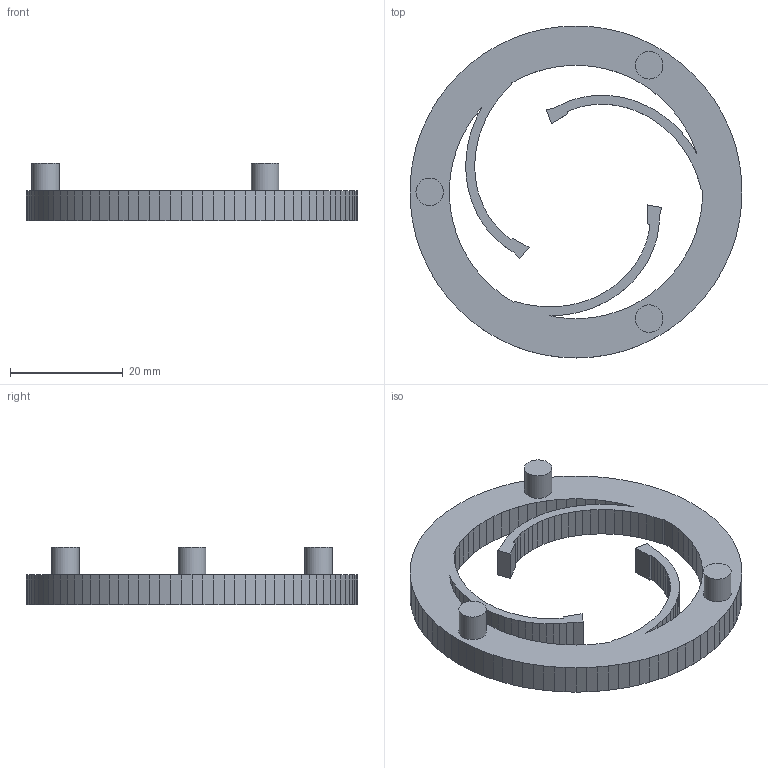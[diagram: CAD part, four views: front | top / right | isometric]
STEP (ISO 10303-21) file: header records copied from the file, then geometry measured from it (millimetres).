
FILE_DESCRIPTION(('Open CASCADE Model'),'2;1');
FILE_NAME('Open CASCADE Shape Model','2026-10-05T13:03:05',('Author'),( 'Open CASCADE'),'Open CASCADE STEP processor 7.9','Open CASCADE 7.9' ,'Unknown');
FILE_SCHEMA(('AUTOMOTIVE_DESIGN { 1 0 10303 214 1 1 1 1 }'));
Length unit declared in the file: millimetre
Products named in the file (1): Open CASCADE STEP translator 7.9 7
Bounding box: 59 x 59 x 10.2 mm (x, y, z)
Volume: 7217.7 mm3; surface area: 5563.6 mm2
Topology: 1 solids, 1 shells, 328 faces, 969 edges, 646 vertices
Faces by surface type: plane 325, cylinder 3
Full cylindrical faces by diameter (mm): 4.9 x3
Entity records: 23339 total; most frequent: CARTESIAN_POINT 3900, DIRECTION 3568, LINE 2895, VECTOR 2895, ORIENTED_EDGE 1938, PCURVE 1938, DEFINITIONAL_REPRESENTATION 1938, EDGE_CURVE 969
